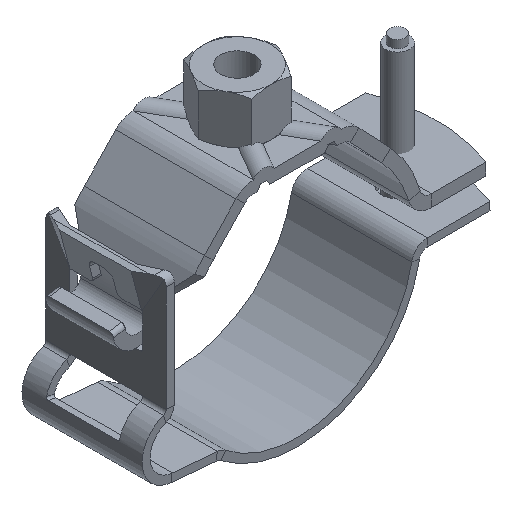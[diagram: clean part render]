
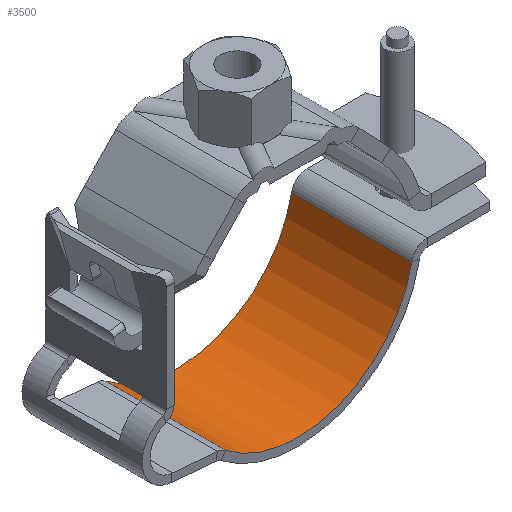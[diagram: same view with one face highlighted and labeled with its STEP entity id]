
A CAD part, isometric view. The second image highlights one B-rep face of the part: STEP entity #3500.
In plain terms, the highlighted cylindrical face has radius 29 mm (diameter 58 mm), a partial arc.
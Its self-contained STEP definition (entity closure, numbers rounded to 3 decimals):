
#170=CIRCLE('',#3814,29.);
#171=CIRCLE('',#3815,29.);
#271=CYLINDRICAL_SURFACE('',#3813,29.);
#384=FACE_OUTER_BOUND('',#598,.T.);
#598=EDGE_LOOP('',(#2482,#2483,#2484,#2485));
#871=LINE('',#5634,#1186);
#875=LINE('',#5646,#1190);
#1186=VECTOR('',#4344,30.);
#1190=VECTOR('',#4356,30.);
#1505=VERTEX_POINT('',#5632);
#1506=VERTEX_POINT('',#5633);
#1509=VERTEX_POINT('',#5644);
#1510=VERTEX_POINT('',#5645);
#1874=EDGE_CURVE('',#1505,#1506,#871,.T.);
#1880=EDGE_CURVE('',#1509,#1510,#875,.T.);
#1881=EDGE_CURVE('',#1506,#1510,#170,.T.);
#1882=EDGE_CURVE('',#1505,#1509,#171,.T.);
#2482=ORIENTED_EDGE('',*,*,#1880,.T.);
#2483=ORIENTED_EDGE('',*,*,#1881,.F.);
#2484=ORIENTED_EDGE('',*,*,#1874,.F.);
#2485=ORIENTED_EDGE('',*,*,#1882,.T.);
#3500=ADVANCED_FACE('',(#384),#271,.F.);
#3813=AXIS2_PLACEMENT_3D('',#5643,#4354,#4355);
#3814=AXIS2_PLACEMENT_3D('',#5647,#4357,#4358);
#3815=AXIS2_PLACEMENT_3D('',#5648,#4359,#4360);
#4344=DIRECTION('',(-1.,0.,0.));
#4354=DIRECTION('center_axis',(1.,0.,0.));
#4355=DIRECTION('ref_axis',(0.,1.,0.));
#4356=DIRECTION('',(-1.,0.,0.));
#4357=DIRECTION('center_axis',(1.,0.,0.));
#4358=DIRECTION('ref_axis',(0.,-0.618,-0.786));
#4359=DIRECTION('center_axis',(1.,0.,0.));
#4360=DIRECTION('ref_axis',(0.,-0.618,-0.786));
#5632=CARTESIAN_POINT('',(30.,-17.916,-20.804));
#5633=CARTESIAN_POINT('',(0.,-17.916,-20.804));
#5634=CARTESIAN_POINT('',(30.,-17.916,-20.804));
#5643=CARTESIAN_POINT('Origin',(15.511,0.,2.));
#5644=CARTESIAN_POINT('',(30.,28.517,-3.273));
#5645=CARTESIAN_POINT('',(0.,28.517,-3.273));
#5646=CARTESIAN_POINT('',(30.,28.517,-3.273));
#5647=CARTESIAN_POINT('Origin',(0.,0.,2.));
#5648=CARTESIAN_POINT('Origin',(30.,0.,2.));
